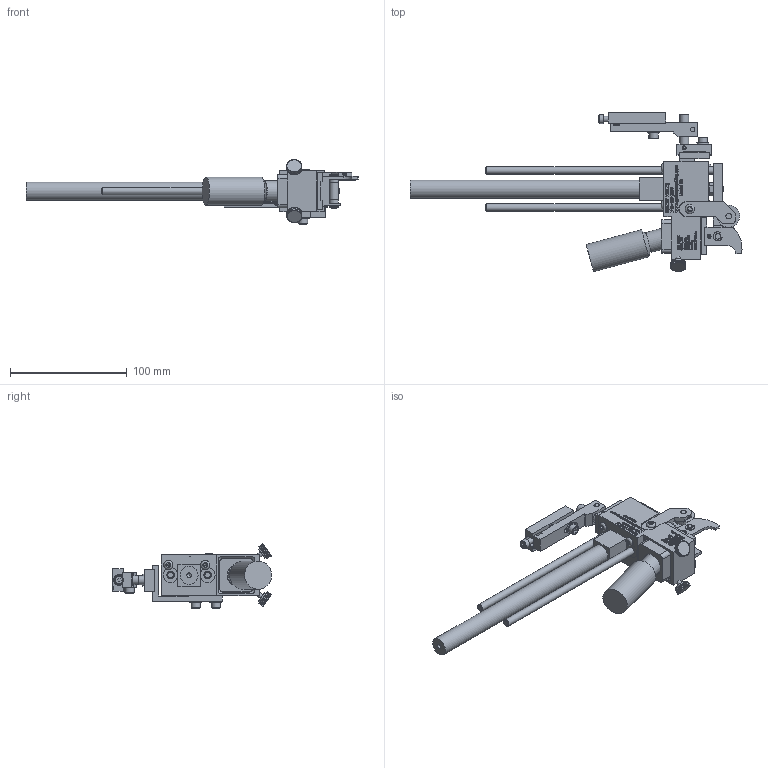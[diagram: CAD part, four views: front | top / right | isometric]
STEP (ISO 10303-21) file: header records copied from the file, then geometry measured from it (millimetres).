
FILE_DESCRIPTION((''),'2;1');
FILE_NAME('C:\Documents and Settings\Ron\My Documents\Inventor\Sprinter Drawing\Machines in Inventor\Model 88\Type\Ext Str\E4\Brkt\Ret\Model 88 ES 4 ret w brkt mod 2012.stp','2012-03-16T14:17:07',('Ron'),(''),'Autodesk Inventor 2011','Autodesk Inventor 2011','');
FILE_SCHEMA(('AUTOMOTIVE_DESIGN { 1 0 10303 214 1 1 1 1 }'));
Length unit declared in the file: inch
Products named in the file (44): Model 88  ES 4  ret w brkt mod 2012; 88 Frame Body; 66 Linear Bearing; Hexagon Socket Button Head Cap Screw - Inch 8 - 32 x 1/4; Hexagon Socket Head Cap Screw - Inch No. 8 - 32 UNC - 1 1/2; 10 Ink Resevior Lock Screw; INK RESERVOIR ASSY; 88 RESERVOIR; 88 Ink Pad; 66 INK BOTTLE; 88 STD Wheel Bractet Assy (prototype); 44 Wheel Retainer; 44 Cam Wheel; 88 Wheel Bracket Arm (prototype); Hexagon Socket Set Screw - Flat Point - Inch 4-48 UNF x 0.19; 8-32x0.25 Hexagon Socket Button Head Cap Screw ANSI/ASME B18.3; E4 Retracted; 88 Rod Carrier Retracted ES 4; 88 Rod Carrier; Type A - Hexagon Socket Set Screw - Cup Point - Inch 8-32 UNC x 0.32; 66 PIVOT SHAFT; 66 PIVOT SHAFT LOCKING RING; 23 66 invert block; AS 1112 (4)  - Metric M6; 66 Spring; 19 Rod Carrier Set Screws; 88 CLIP FOR MODELS; 88--CLIP plate; Hexagon Socket Set Screw - Flat Point - Inch 6-32 UNC x 0.45; 88 baselock (model sized); 88 baselock STAMP; E4; Model 88 RPB; rpb4; rpb3; rpb-1; rpb2; No. 10-24x0.88 Hexagon socket head cap screw ANSI/ASME B18.3; Type B - Plain Washer (Inch) No. 10 - narrow - Type B; 66 Machine Mounting Pivot Bracket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
Assembly tree (59 placements, depth 4):
  Model 88  ES 4  ret w brkt mod 2012
    88 Frame Body
    66 Linear Bearing  x2
    Hexagon Socket Button Head Cap Screw - Inch 8 - 32 x 1/4  x4
    Hexagon Socket Head Cap Screw - Inch No. 8 - 32 UNC - 1 1/2  x2
    10 Ink Resevior Lock Screw  x2
    INK RESERVOIR ASSY
      88 RESERVOIR
      88 Ink Pad
      66 INK BOTTLE
    88 STD Wheel Bractet Assy (prototype)
      44 Wheel Retainer
      44 Cam Wheel
      88 Wheel Bracket Arm (prototype)
      Hexagon Socket Set Screw - Flat Point - Inch 4-48 UNF x 0.19
    8-32x0.25 Hexagon Socket Button Head Cap Screw ANSI/ASME B18.3
    E4 Retracted
    88 Rod Carrier Retracted ES 4
      88 Rod Carrier
      Type A - Hexagon Socket Set Screw - Cup Point - Inch 8-32 UNC x 0.32
      66 PIVOT SHAFT
      66 PIVOT SHAFT LOCKING RING  x2
      23 66 invert block
      AS 1112 (4)  - Metric M6
      66 Spring
      19 Rod Carrier Set Screws  x2
      88 CLIP FOR MODELS
        88--CLIP plate
        Hexagon Socket Set Screw - Flat Point - Inch 6-32 UNC x 0.45
        88 baselock (model sized)
        88 baselock STAMP
      E4  x2
    Model 88 RPB
      rpb4
      rpb3
      rpb-1
      rpb2
      No. 10-24x0.88 Hexagon socket head cap screw ANSI/ASME B18.3  x5
      Type B - Plain Washer (Inch) No. 10 - narrow - Type B  x4
      66 Machine Mounting Pivot Bracket
      Pin - Hardened Ground Machine Dowel (Inch) 1/8 x 3/4
      Pin - Hardened Ground Machine Dowel (Inch) 1/8 x 3/8
    Hexagon Socket Set Screw - Flat Point - Inch 8-32 UNC x 0.32
    10-32 PORTS DECAL
Bounding box: 284.56 x 136.58 x 55.4 mm (x, y, z)
Volume: 223517.5 mm3; surface area: 104944.2 mm2
Topology: 427 solids, 427 shells, 6414 faces, 15723 edges, 9738 vertices
Faces by surface type: plane 4465, bspline 1294, cylinder 561, cone 71, torus 23
Full cylindrical faces by diameter (mm): 1.143 x1, 2.261 x1, 2.54 x2, 2.642 x1, 2.845 x1, 3.175 x4, 3.2 x1, 3.302 x14, 3.505 x1, 3.556 x1, 3.683 x2, 3.962 x10, 4.064 x2, 4.166 x11, 4.547 x2, 4.699 x3, 4.75 x4, 4.775 x2, 4.826 x8, 4.864 x2, 4.917 x1, 5.055 x1, 5.156 x7, 5.359 x1, 5.556 x1, 6.223 x2, 6.325 x4, 6.35 x5, 6.426 x1, 6.604 x1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
Entity records: 152785 total; most frequent: CARTESIAN_POINT 45409, ORIENTED_EDGE 23890, DIRECTION 17288, EDGE_CURVE 11945, VECTOR 8532, LINE 8532, VERTEX_POINT 7675, EDGE_LOOP 5356
